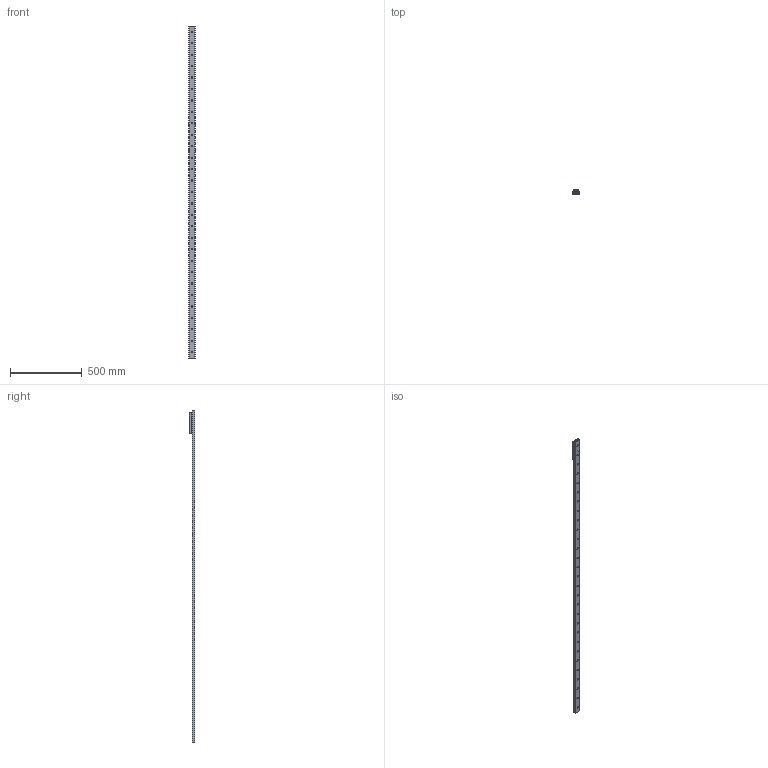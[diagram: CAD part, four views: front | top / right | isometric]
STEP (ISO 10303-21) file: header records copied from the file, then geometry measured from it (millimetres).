
FILE_DESCRIPTION( ( 'STEP AP214' ), '1' );
FILE_NAME( 'p:/temp/worker_8/temp/exporttempdir_3840_143_gWau0/format_0/TGV-02320_1_RV43G-3.stp', '2021-05-14T19:18:09', ( 'License CC BY-ND 4.0' ), ( 'CADENAS' ), ' ', 'PARTsolutions', ' ' );
FILE_SCHEMA( ( 'AUTOMOTIVE_DESIGN { 1 0 10303 214 1 1 1 1 }' ) );
Length unit declared in the file: millimetre
Products named in the file (6): TGV-02320/1/RV43G-3; _TGV43-2320-(3-1); _RVG43-3-slider; _RGNV43R; _RGAV43R; _WR43G-01
Assembly tree (7 placements, depth 2):
  TGV-02320/1/RV43G-3
    _TGV43-2320-(3-1)
    _RVG43-3-slider
    _RGNV43R  x2
    _RGAV43R
    _WR43G-01  x2
Bounding box: 43 x 37 x 2320 mm (x, y, z)
Volume: 970210.7 mm3; surface area: 390494 mm2
Topology: 7 solids, 7 shells, 1099 faces, 2869 edges, 1866 vertices
Faces by surface type: plane 663, cylinder 325, cone 68, bspline 34, torus 9
Full cylindrical faces by diameter (mm): 1.76 x4, 3 x8, 6 x4, 6.647 x4, 6.8 x3, 8 x3, 8.5 x29, 11 x11, 15 x6, 15.5 x1, 18.98 x2, 19 x1, 31.4 x6
Entity records: 26523 total; most frequent: CARTESIAN_POINT 4158, DIRECTION 3557, ORIENTED_EDGE 3238, EDGE_CURVE 1619, AXIS2_PLACEMENT_3D 1375, VERTEX_POINT 1138, EDGE_LOOP 971, LINE 807
